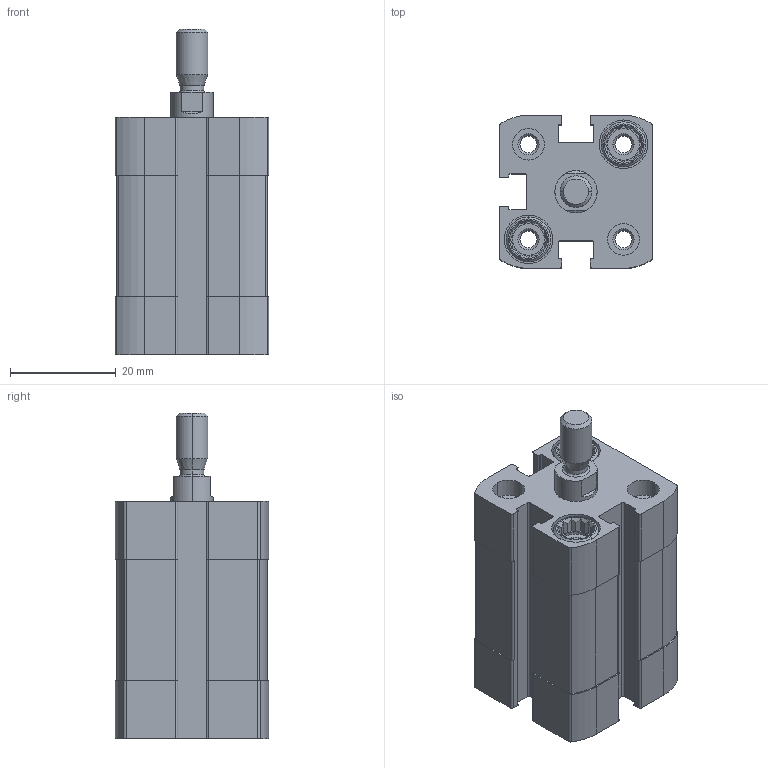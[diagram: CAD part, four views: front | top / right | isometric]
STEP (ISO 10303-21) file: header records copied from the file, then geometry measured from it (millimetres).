
FILE_DESCRIPTION (( 'STEP AP203' ), '1' );
FILE_NAME ('CCN16-10M.STEP', '2017-03-28T14:16:43', ( '' ), ( '' ), 'SwSTEP 2.0', 'SolidWorks 2016', '' );
FILE_SCHEMA (( 'CONFIG_CONTROL_DESIGN' ));
Length unit declared in the file: millimetre
Products named in the file (3): CCN-10_(KS); CCN16-10M; CCN-10---(Z)
Assembly tree (2 placements, depth 2):
  CCN16-10M
    CCN-10---(Z)
    CCN-10_(KS)
Bounding box: 29 x 29 x 61.7 mm (x, y, z)
Volume: 28385.2 mm3; surface area: 14743.9 mm2
Topology: 2 solids, 2 shells, 365 faces, 942 edges, 616 vertices
Faces by surface type: plane 187, cylinder 134, cone 40, bspline 4
Entity records: 11613 total; most frequent: CARTESIAN_POINT 2288, DIRECTION 1898, ORIENTED_EDGE 1884, EDGE_CURVE 942, AXIS2_PLACEMENT_3D 690, VERTEX_POINT 616, VECTOR 518, LINE 518
